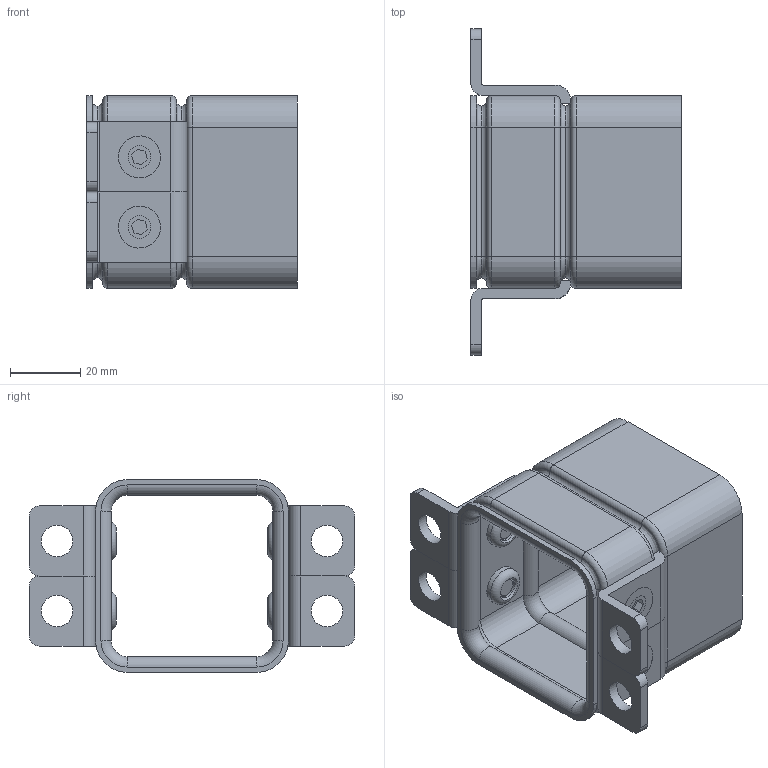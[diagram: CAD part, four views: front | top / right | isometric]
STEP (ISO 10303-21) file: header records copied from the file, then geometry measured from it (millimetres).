
FILE_DESCRIPTION((''),'2;1');
FILE_NAME('C:\Uebbing\PARAMETERKETTEN\PFR\PFR 221\PFR 221 Anschluss A.stp','2012-03-30T08:16:12',('Uebbing'),(''),'Autodesk Inventor 10','Autodesk Inventor 10','');
FILE_SCHEMA(('AUTOMOTIVE_DESIGN { 1 0 10303 214 1 1 1 1 }'));
Length unit declared in the file: millimetre
Products named in the file (5): PFR 221 Anschluss A; PFR 221 Normalanschluss; Anschlusswinkel; Imbusschraube M6x5 Senkkopf; Rändelmutter M6 flach
Assembly tree (13 placements, depth 2):
  PFR 221 Anschluss A
    PFR 221 Normalanschluss
    Anschlusswinkel  x4
    Imbusschraube M6x5 Senkkopf  x4
    Rändelmutter M6 flach  x4
Bounding box: 60 x 93 x 55 mm (x, y, z)
Volume: 40377.7 mm3; surface area: 37593.1 mm2
Topology: 13 solids, 13 shells, 321 faces, 728 edges, 444 vertices
Faces by surface type: plane 129, cylinder 124, bspline 28, torus 24, cone 16
Full cylindrical faces by diameter (mm): 6 x8, 6.5 x4, 9 x8, 9.2 x4, 11 x4, 12 x4
Entity records: 6348 total; most frequent: CARTESIAN_POINT 1822, DIRECTION 1010, ORIENTED_EDGE 832, EDGE_CURVE 416, AXIS2_PLACEMENT_3D 403, VERTEX_POINT 252, EDGE_LOOP 234, CIRCLE 212
